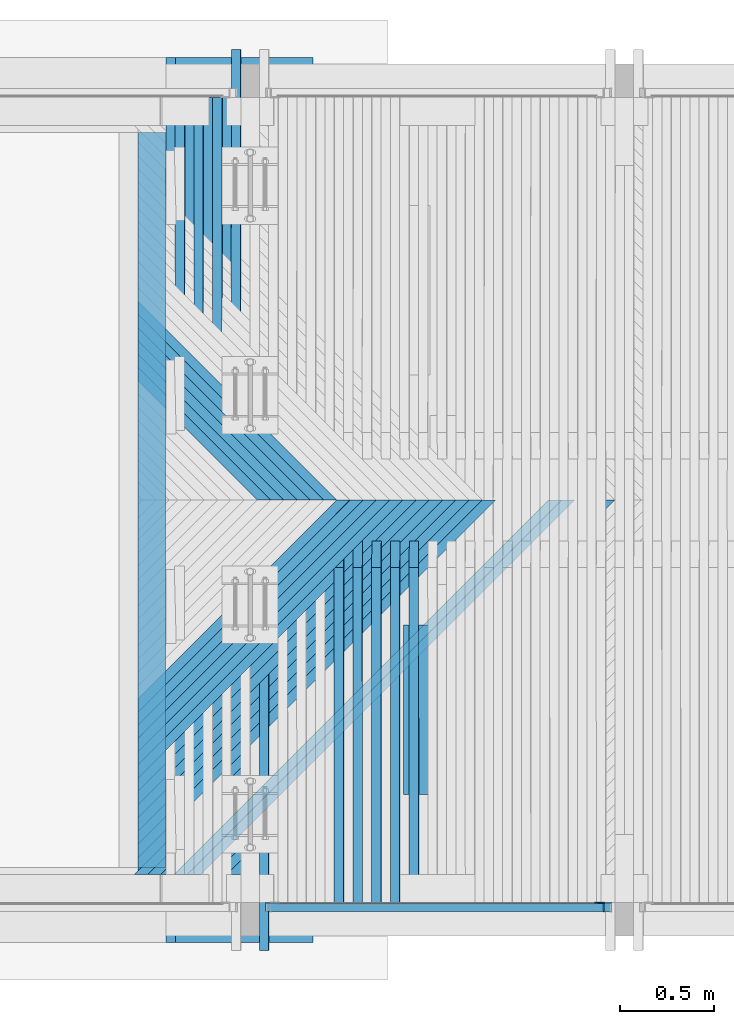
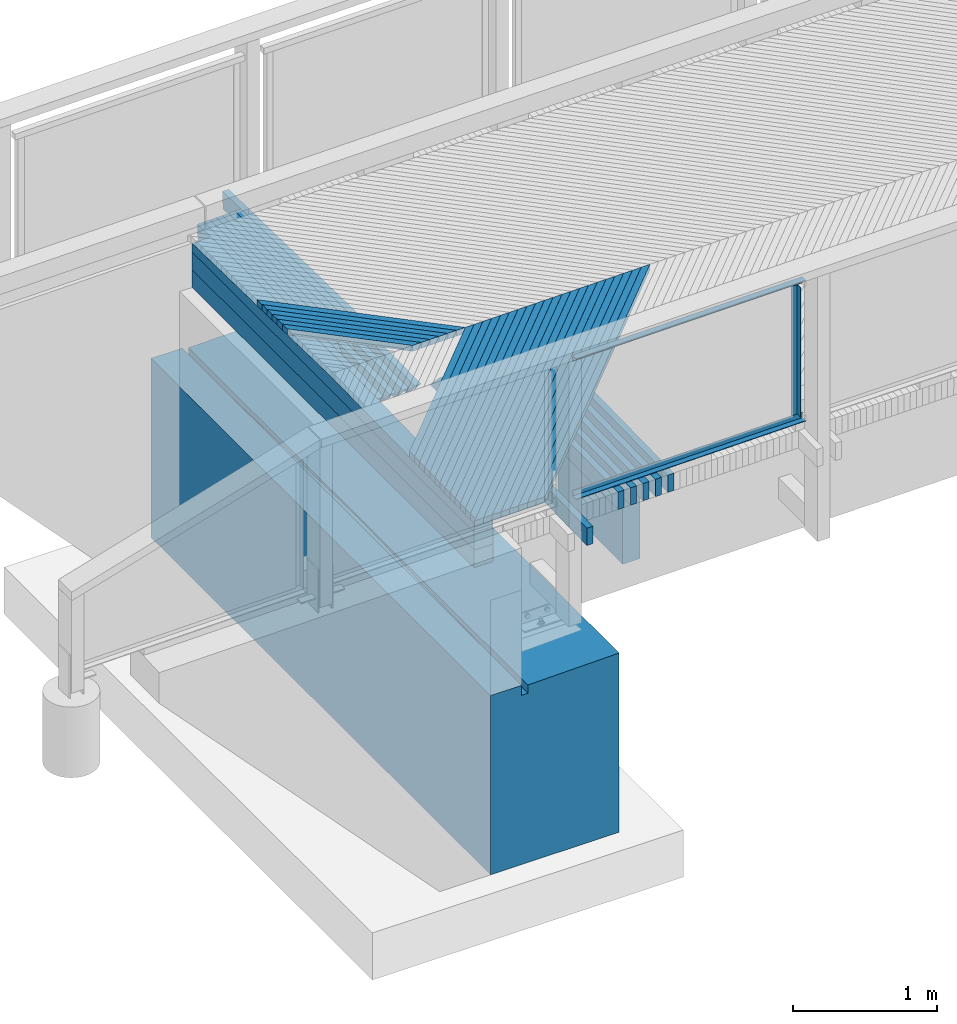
# One storey, part 17 of 65: 49 beams.
"""IFC2X3 building model written with IfcOpenShell, lengths in millimetres."""

import ifcopenshell
import ifcopenshell.guid

model = None  # the IFC model being written
_history = None  # IfcOwnerHistory: only IFC2X3 demands one
_inside = {}  # id of a spatial element -> (the spatial element, [elements in it])
_under = {}  # id of a project, library or spatial element -> (it, [spatial elements below it])
_declared = {}  # id of a project -> (the project, [libraries it declares])
_typed = {}  # id of a type object -> (the type object, [elements of that type])
_made_of = {}  # id of a material, layer set ... -> (it, [elements and type objects made of it])


def new_model(schema):
    """Start an empty IFC model of exactly this schema.

    Asked for "IFC4X3", IfcOpenShell would pick the latest addendum, in which some entities
    have other attributes; the version numbers below select the first issue.
    IFC2X3 requires an IfcOwnerHistory on every rooted entity: one is made here for all.
    """
    global model, _history
    if schema == "IFC4X3":
        model = ifcopenshell.file(schema_version=(4, 3, 0, 0))
    else:
        model = ifcopenshell.file(schema=schema)
    _inside.clear()
    _under.clear()
    _declared.clear()
    _typed.clear()
    _made_of.clear()
    _history = None
    if model.schema == "IFC2X3":
        org = make("IfcOrganization", Name="unknown")
        user = make(
            "IfcPersonAndOrganization",
            ThePerson=make("IfcPerson", FamilyName="unknown"),
            TheOrganization=org,
        )
        app = make(
            "IfcApplication",
            ApplicationDeveloper=org,
            Version="unknown",
            ApplicationFullName="unknown",
            ApplicationIdentifier="unknown",
        )
        _history = make(
            "IfcOwnerHistory",
            OwningUser=user,
            OwningApplication=app,
            ChangeAction="ADDED",
            CreationDate=0,
        )
    return model


def make(cls, **values):
    """One entity of the class cls with the attributes given. An attribute that is None is left unset."""
    return model.create_entity(
        cls, **{name: value for name, value in values.items() if value is not None}
    )


def rooted(cls, **values):
    """An entity with a GlobalId (a new one), such as an element, a storey or a relation."""
    return make(cls, GlobalId=ifcopenshell.guid.new(), OwnerHistory=_history, **values)


def si_unit(unit_type, name, prefix=None):
    """IfcSIUnit, for example si_unit("LENGTHUNIT", "METRE", prefix="MILLI")."""
    return make("IfcSIUnit", UnitType=unit_type, Prefix=prefix, Name=name)


def assignment(units):
    """IfcUnitAssignment: the units of a project."""
    return None if units is None else make("IfcUnitAssignment", Units=units)


def point(xyz):
    """IfcCartesianPoint."""
    return None if xyz is None else make("IfcCartesianPoint", Coordinates=xyz)


def direction(xyz):
    """IfcDirection."""
    return None if xyz is None else make("IfcDirection", DirectionRatios=xyz)


def frame(location, z_axis=None, x_axis=None):
    """IfcAxis2Placement3D, a coordinate frame: its origin and axes. An axis left out is left unset."""
    return make(
        "IfcAxis2Placement3D",
        Location=point(location),
        Axis=direction(z_axis),
        RefDirection=direction(x_axis),
    )


def origin_with_axes():
    """The frame at (0, 0, 0) with the z axis (0, 0, 1) and the x axis (1, 0, 0) written out."""
    return frame((0.0, 0.0, 0.0), z_axis=(0.0, 0.0, 1.0), x_axis=(1.0, 0.0, 0.0))


def place(relative_to, where):
    """IfcLocalPlacement: puts the frame where relative to a parent placement (None: the world)."""
    return make(
        "IfcLocalPlacement", PlacementRelTo=relative_to, RelativePlacement=where
    )


def context(
    kind, dimensions, precision=None, world=None, true_north=None, identifier=None
):
    """IfcGeometricRepresentationContext, for example the 3D "Model" context."""
    return make(
        "IfcGeometricRepresentationContext",
        ContextIdentifier=identifier,
        ContextType=kind,
        CoordinateSpaceDimension=dimensions,
        Precision=precision,
        WorldCoordinateSystem=world,
        TrueNorth=true_north,
    )


def subcontext(parent, identifier, kind, view, scale=None):
    """IfcGeometricRepresentationSubContext, for example "Body" below "Model"."""
    return make(
        "IfcGeometricRepresentationSubContext",
        ContextIdentifier=identifier,
        ContextType=kind,
        ParentContext=parent,
        TargetScale=scale,
        TargetView=view,
    )


def project(units=None, contexts=None):
    """IfcProject with its units and contexts."""
    return rooted(
        "IfcProject",
        Name="project",
        RepresentationContexts=contexts,
        UnitsInContext=assignment(units),
    )


def spatial(cls, under=None, at=None, **own):
    """A site, building, storey or space (cls), placed at a placement, below another one or the project."""
    s = rooted(cls, ObjectPlacement=at, **own)
    if under is not None:
        _under.setdefault(under.id(), (under, []))[1].append(s)
    return s


def faces_of(points, faces, orient=None, outer=None):
    """IfcFace entities. A face is a list of loops; a loop is a list of indices into points, from 0.

    orient and outer hold one flag for each loop. By default every Orientation is true, the
    first loop of a face is its IfcFaceOuterBound and the others are IfcFaceBound.
    """
    made = []
    for i, loops in enumerate(faces):
        bounds = []
        for j, loop in enumerate(loops):
            is_outer = j == 0 if outer is None else outer[i][j]
            bounds.append(
                make(
                    "IfcFaceOuterBound" if is_outer else "IfcFaceBound",
                    Bound=make("IfcPolyLoop", Polygon=[points[k] for k in loop]),
                    Orientation=True if orient is None else orient[i][j],
                )
            )
        made.append(make("IfcFace", Bounds=bounds))
    return made


def faceted_brep(points, faces, orient=None, outer=None, voids=None):
    """IfcFacetedBrep: a solid bounded by flat faces; with voids (closed shells), ...WithVoids."""
    shared = [point(p) for p in points]
    hull = make("IfcClosedShell", CfsFaces=faces_of(shared, faces, orient, outer))
    if voids is None:
        return make("IfcFacetedBrep", Outer=hull)
    return make(
        "IfcFacetedBrepWithVoids",
        Outer=hull,
        Voids=[
            make(cls, CfsFaces=faces_of(shared, fs, o, b)) for cls, fs, o, b in voids
        ],
    )


def shape(context_of_items, identifier, shape_type, items):
    """IfcShapeRepresentation: the items that make up one representation, for example the "Body"."""
    return make(
        "IfcShapeRepresentation",
        ContextOfItems=context_of_items,
        RepresentationIdentifier=identifier,
        RepresentationType=shape_type,
        Items=items,
    )


def material(Name=None, Category=None):
    """IfcMaterial."""
    return make("IfcMaterial", Name=Name, Category=Category)


def made_of(thing, what):
    """Note that an element or type object is made of a material, layer set ...; save() writes the relation."""
    if what is not None:
        _made_of.setdefault(what.id(), (what, []))[1].append(thing)
    return thing


def type_object(cls, material=None, **own):
    """A type object (cls), such as IfcWallType, which elements share."""
    return made_of(rooted(cls, **own), material)


def element(
    cls,
    number,
    at=None,
    inside=None,
    cuts=None,
    type_object=None,
    material=None,
    context=None,
    identifier="Body",
    shape_type=None,
    held_by="IfcProductDefinitionShape",
    body=None,
    shapes=None,
    **own,
):
    """One element of the class cls, such as IfcWall. Its Tag is "e" and its number.

    at: its placement. inside: the storey or other place that contains it. cuts: it is an
    opening in that element (IfcRelVoidsElement). A single representation is given by context,
    identifier, shape_type and body (its items); several are given by shapes. held_by: the class
    of the entity that holds the representations. save() writes the other relations.
    """
    e = rooted(cls, Tag="e%d" % number, ObjectPlacement=at, **own)
    if body is not None:
        shapes = [shape(context, identifier, shape_type, body)]
    if shapes is not None:
        e.Representation = make(held_by, Representations=shapes)
    if inside is not None:
        _inside.setdefault(inside.id(), (inside, []))[1].append(e)
    if cuts is not None:
        rooted(
            "IfcRelVoidsElement", RelatingBuildingElement=cuts, RelatedOpeningElement=e
        )
    if type_object is not None:
        _typed.setdefault(type_object.id(), (type_object, []))[1].append(e)
    return made_of(e, material)


def aggregate(whole, parts):
    """IfcRelAggregates: a whole, such as a stair, and the parts it consists of."""
    return rooted("IfcRelAggregates", RelatingObject=whole, RelatedObjects=parts)


def save(model, path):
    """Write the relations noted so far, then the file.

    IfcRelAggregates (storeys below a building ...), IfcRelContainedInSpatialStructure (elements
    in a storey), IfcRelDefinesByType, IfcRelAssociatesMaterial and IfcRelDeclares: one each for
    every whole, place, type object, material and project.
    """
    for whole, parts in _under.values():
        aggregate(whole, parts)
    for where, things in _inside.values():
        rooted(
            "IfcRelContainedInSpatialStructure",
            RelatedElements=things,
            RelatingStructure=where,
        )
    for kind, things in _typed.values():
        rooted("IfcRelDefinesByType", RelatedObjects=things, RelatingType=kind)
    for what, things in _made_of.values():
        rooted("IfcRelAssociatesMaterial", RelatedObjects=things, RelatingMaterial=what)
    for by, libraries in _declared.values():
        rooted("IfcRelDeclares", RelatingContext=by, RelatedDefinitions=libraries)
    model.write(path)


model = new_model("IFC2X3")

# Units and contexts
model_context = context("Model", 3, precision=1e-05, world=origin_with_axes())
body_context = subcontext(model_context, "Body", "Model", "MODEL_VIEW")
ifc_project = project(units=[si_unit("LENGTHUNIT", "METRE", prefix="MILLI"), si_unit("AREAUNIT", "SQUARE_METRE"), si_unit("VOLUMEUNIT", "CUBIC_METRE"), si_unit("MASSUNIT", "GRAM", prefix="KILO"), si_unit("TIMEUNIT", "SECOND"), si_unit("PLANEANGLEUNIT", "RADIAN"), si_unit("SOLIDANGLEUNIT", "STERADIAN"), si_unit("THERMODYNAMICTEMPERATUREUNIT", "DEGREE_CELSIUS"), si_unit("LUMINOUSINTENSITYUNIT", "LUMEN")], contexts=[model_context])

# Site, building, storey
site_placement = place(None, origin_with_axes())
site = spatial("IfcSite", under=ifc_project, at=site_placement, Name="Undefined", CompositionType="ELEMENT")
building_placement = place(site_placement, origin_with_axes())
building = spatial("IfcBuilding", under=site, at=building_placement, Name="Undefined", CompositionType="ELEMENT")
storey_placement = place(building_placement, origin_with_axes())
storey = spatial("IfcBuildingStorey", under=building, at=storey_placement, Name="Undefined", CompositionType="ELEMENT", Elevation=0.0)

# Beams
ifc_material_1 = material(Name="TIMBER/Timber_Undefined")
beam_type_1 = type_object("IfcBeamType", Name="150*150", PredefinedType="NOTDEFINED")
beam_1_placement = place(storey_placement, frame((-525.0, 20399.9992755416, 3109.00000000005), z_axis=(-1.0, 0.0, 0.0), x_axis=(0.0, 1.0, 0.0)))
element("IfcBeam", 1, at=beam_1_placement, inside=storey, type_object=beam_type_1, material=ifc_material_1, Name="BEAM", ObjectType="150*150", context=body_context, shape_type="Brep", body=[
    faceted_brep([(3.63797880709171e-12, 75.0000000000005, -75.0), (3.63797880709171e-12, 75.0000000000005, 75.0), (3930.0, 75.0, 75.0), (3930.0, 75.0, -75.0), (3930.0, -0.55802813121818, 75.0), (3930.0, -3.17681141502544, -75.0), (1965.00070282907, -42.4729688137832, -75.0), (0.0, -3.17678330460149, -75.0), (0.0, -0.558000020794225, 75.0), (1965.00070282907, -39.8541855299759, 75.0)], [[[0, 1, 2, 3]], [[3, 2, 4, 5]], [[0, 3, 5, 6, 7]], [[1, 0, 7, 8]], [[4, 2, 1, 8, 9]], [[5, 4, 9, 6]], [[8, 7, 6, 9]]]),
])
for number, where, z_axis, x_axis, name in (
    (2, (-525.0, 20399.9992755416, 2959.00000000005), (-1.0, 0.0, 0.0), (0.0, 1.0, 0.0), "BEAM"),
    (3, (-525.0, 20399.9992755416, 2809.00000000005), (-1.0, 0.0, 0.0), (0.0, 1.0, 0.0), "BEAM"),
):
    element("IfcBeam", number, at=place(storey_placement, frame(where, z_axis=z_axis, x_axis=x_axis)), inside=storey, type_object=beam_type_1, material=ifc_material_1, Name=name, ObjectType="150*150", context=body_context, shape_type="Brep", body=[
        faceted_brep([(3.63797880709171e-12, 75.0000000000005, -75.0), (3.63797880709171e-12, 75.0000000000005, 75.0), (3930.0, 75.0, 75.0), (3930.0, 75.0, -75.0), (0.0, -75.0000000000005, 75.0), (3930.0, -75.0, 75.0), (0.0, -75.0000000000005, -75.0), (3930.0, -75.0, -75.0)], [[[0, 1, 2, 3]], [[1, 4, 5, 2]], [[4, 6, 7, 5]], [[6, 0, 3, 7]], [[5, 7, 3, 2]], [[6, 4, 1, 0]]]),
    ])
ifc_material_2 = material(Name="CONCRETE/Concrete_Undefined")
beam_type_2 = type_object("IfcBeamType", Name="1524*1035", PredefinedType="NOTDEFINED")
beam_2_placement = place(storey_placement, frame((-182.5, 20000.0, 1162.0), z_axis=(0.0, 0.0, 1.0), x_axis=(0.0, 1.0, 0.0)))
element("IfcBeam", 4, at=beam_2_placement, inside=storey, type_object=beam_type_2, material=ifc_material_2, Name="LAAKERIPALKKI", ObjectType="1524*1035", context=body_context, shape_type="Brep", body=[
    faceted_brep([(4730.0, 267.5, 762.0), (2366.92526672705, 267.5, 762.0), (2367.55223388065, 267.5, 737.442575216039), (4730.0, 267.5, 676.997414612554), (2367.55223388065, 217.5, 737.442575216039), (4730.0, 217.5, 676.997414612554), (4730.0, 217.500000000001, 747.0), (2367.30822656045, 217.5, 747.0), (0.0, 217.5, 676.997414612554), (0.0, 267.5, 676.997414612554), (0.0, 267.5, 762.0), (0.0, 517.5, 762.0), (0.0, 517.5, -762.0), (0.0, -517.5, -762.0), (0.0, -517.5, 762.0), (0.0, 217.5, 747.0), (4730.0, 517.5, -762.0), (4730.0, 517.5, 762.0), (4730.0, -517.5, -762.0), (4730.0, -517.5, 762.0), (2362.69177343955, 217.5, 747.0), (2362.45109111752, 217.5, 737.312339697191), (2362.45109111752, 267.5, 737.312339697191), (2363.07473327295, 267.5, 762.0)], [[[0, 1, 2, 3]], [[3, 2, 4, 5]], [[6, 5, 4, 7]], [[8, 9, 10, 11, 12, 13, 14, 15]], [[16, 12, 11, 17]], [[13, 12, 16, 18]], [[14, 13, 18, 19]], [[20, 15, 14, 19, 6, 7]], [[7, 4, 21, 8, 15, 20]], [[8, 21, 4, 2, 22, 9]], [[23, 10, 9, 22, 2, 1]], [[17, 11, 10, 23, 1, 0]], [[19, 18, 16, 17, 0, 3, 5, 6]]]),
])
ifc_material_3 = material(Name="STEEL/S235JR")
beam_type_3 = type_object("IfcBeamType", Name="L50*5", PredefinedType="NOTDEFINED")
beam_3_placement = place(storey_placement, frame((1867.50249484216, 20190.01, 4385.3234045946), z_axis=(0.0, -1.0, 0.0), x_axis=(0.0, 0.0, -1.0)))
element("IfcBeam", 5, at=beam_3_placement, inside=storey, type_object=beam_type_3, material=ifc_material_3, Name="BEAM", ObjectType="L50*5", context=body_context, shape_type="Brep", body=[
    faceted_brep([(0.0, 25.0, -25.0), (0.0, 25.0, 25.0), (1099.99156352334, 25.0, 25.0), (1099.99156352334, 25.0, -25.0), (0.0, 20.0, 25.0), (1099.99156352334, 20.0, 25.0), (0.0, 20.0, -20.0), (1099.99156352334, 20.0, -20.0), (0.0, -25.0, -20.0), (1099.99156352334, -25.0, -20.0), (0.0, -25.0, -25.0), (1099.99156352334, -25.0, -25.0)], [[[0, 1, 2, 3]], [[1, 4, 5, 2]], [[4, 6, 7, 5]], [[6, 8, 9, 7]], [[8, 10, 11, 9]], [[10, 0, 3, 11]], [[5, 7, 9, 11, 3, 2]], [[10, 8, 6, 4, 1, 0]]]),
])
for number, where, z_axis, x_axis, name in (
    (6, (1931.70877567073, 20190.0100000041, 3260.78572991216), (0.0, -1.0, 0.0), (-0.999932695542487, 0.0, -0.0116019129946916), "BEAM"),
    (7, (83.2839129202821, 20190.0100000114, 4389.33260482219), (0.0, -1.0, 0.0), (0.999932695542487, 0.0, 0.0116019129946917), "BEAM"),
):
    element("IfcBeam", number, at=place(storey_placement, frame(where, z_axis=z_axis, x_axis=x_axis)), inside=storey, type_object=beam_type_3, material=ifc_material_3, Name=name, ObjectType="L50*5", context=body_context, shape_type="Brep", body=[
        faceted_brep([(0.0, 25.0, -25.0), (0.0, 25.0, 25.0), (1849.12941305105, 24.9999999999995, 25.0), (1849.12941305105, 24.9999999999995, -25.0), (0.0, 20.0, 25.0), (1849.12941305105, 20.0, 25.0), (0.0, 20.0, -20.0), (1849.12941305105, 20.0, -20.0), (0.0, -25.0, -20.0), (1849.12941305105, -25.0000000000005, -20.0), (0.0, -25.0, -25.0), (1849.12941305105, -25.0000000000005, -25.0)], [[[0, 1, 2, 3]], [[1, 4, 5, 2]], [[4, 6, 7, 5]], [[6, 8, 9, 7]], [[8, 10, 11, 9]], [[10, 0, 3, 11]], [[5, 7, 9, 11, 3, 2]], [[10, 8, 6, 4, 1, 0]]]),
    ])
beam_type_4 = type_object("IfcBeamType", Name="945*140", PredefinedType="NOTDEFINED")
beam_4_placement = place(storey_placement, frame((891.0, 21697.5, 2500.3779002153), z_axis=(0.0, 0.0, 1.0), x_axis=(0.0, -1.0, 0.0)))
element("IfcBeam", 8, at=beam_4_placement, inside=storey, type_object=beam_type_4, material=ifc_material_1, Name="PALKKI", ObjectType="945*140", context=body_context, shape_type="Brep", body=[
    faceted_brep([(0.0, 70.0, -472.5), (0.0, 70.0, 472.5), (905.0, 70.0, 472.5), (905.0, 70.0, -472.5), (0.0, -70.0, 472.5), (905.0, -70.0, 472.5), (0.0, -70.0, -472.5), (905.0, -70.0, -472.5)], [[[0, 1, 2, 3]], [[1, 4, 5, 2]], [[4, 6, 7, 5]], [[6, 0, 3, 7]], [[5, 7, 3, 2]], [[6, 4, 1, 0]]]),
])
beam_type_5 = type_object("IfcBeamType", Name="50*50", PredefinedType="NOTDEFINED")
beam_5_placement = place(storey_placement, frame((73.4729104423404, 22365.4998996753, 3183.9450845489), z_axis=(0.70722262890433, 0.706981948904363, -0.0035604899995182), x_axis=(-0.706832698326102, 0.706948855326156, -0.0247154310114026)))
element("IfcBeam", 9, at=beam_5_placement, inside=storey, type_object=beam_type_5, material=ifc_material_1, Name="BEAM", ObjectType="50*50", context=body_context, shape_type="Brep", body=[
    faceted_brep([(25.0011701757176, -25.0000000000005, -24.9999999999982), (-25.0011704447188, -25.0, 24.9999999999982), (-26.4154158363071, 24.9999999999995, 24.9999999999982), (23.5869248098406, 24.9999999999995, -24.9999999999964), (977.288643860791, 25.0000000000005, 24.9999999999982), (927.26106091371, 25.0000000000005, -25.0000000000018), (928.319039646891, -25.0, -25.0), (978.346622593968, -24.9999999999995, 25.0)], [[[0, 1, 2, 3]], [[3, 2, 4, 5]], [[0, 3, 5, 6]], [[1, 0, 6, 7]], [[2, 1, 7, 4]], [[6, 5, 4, 7]]]),
])
beam_6_placement = place(storey_placement, frame((144.191069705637, 22365.4998996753, 3184.87198634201), z_axis=(0.707222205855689, 0.706981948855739, -0.00364356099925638), x_axis=(-0.706835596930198, 0.706948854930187, -0.0246324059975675)))
element("IfcBeam", 10, at=beam_6_placement, inside=storey, type_object=beam_type_5, material=ifc_material_1, Name="BEAM", ObjectType="50*50", context=body_context, shape_type="Brep", body=[
    faceted_brep([(25.0011701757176, -25.0000000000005, -24.9999999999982), (-25.0011704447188, -25.0, 24.9999999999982), (-26.4154158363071, 24.9999999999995, 24.9999999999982), (23.5869248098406, 24.9999999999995, -24.9999999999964), (1077.33772433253, 25.0, 24.9999999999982), (1027.310376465, 25.0, -25.0), (1028.36004453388, -25.0000000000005, -25.0), (1078.38739240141, -25.0, 24.9999999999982)], [[[0, 1, 2, 3]], [[3, 2, 4, 5]], [[0, 3, 5, 6]], [[1, 0, 6, 7]], [[2, 1, 7, 4]], [[6, 5, 4, 7]]]),
])
beam_7_placement = place(storey_placement, frame((214.909337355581, 22365.4998996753, 3185.79058152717), z_axis=(0.707221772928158, 0.706981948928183, -0.00372663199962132), x_axis=(-0.706838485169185, 0.706948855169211, -0.024549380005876)))
element("IfcBeam", 11, at=beam_7_placement, inside=storey, type_object=beam_type_5, material=ifc_material_1, Name="BEAM", ObjectType="50*50", context=body_context, shape_type="Brep", body=[
    faceted_brep([(25.0011701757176, -25.0000000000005, -24.9999999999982), (-25.0011704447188, -25.0, 24.9999999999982), (-26.4154158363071, 24.9999999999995, 24.9999999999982), (23.5869248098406, 24.9999999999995, -24.9999999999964), (1177.38615452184, 25.0000000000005, 25.0), (1127.35904169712, 25.0, -25.0000000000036), (1128.40039913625, -25.0, -25.0000000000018), (1178.42751196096, -25.0, 24.9999999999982)], [[[0, 1, 2, 3]], [[3, 2, 4, 5]], [[0, 3, 5, 6]], [[1, 0, 6, 7]], [[2, 1, 7, 4]], [[6, 5, 4, 7]]]),
])
beam_8_placement = place(storey_placement, frame((285.627712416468, 22365.4998996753, 3186.70087009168), z_axis=(0.707221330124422, 0.706981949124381, -0.00380970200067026), x_axis=(-0.70684136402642, 0.706948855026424, -0.0244663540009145)))
element("IfcBeam", 12, at=beam_8_placement, inside=storey, type_object=beam_type_5, material=ifc_material_1, Name="BEAM", ObjectType="50*50", context=body_context, shape_type="Brep", body=[
    faceted_brep([(25.0011701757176, -25.0000000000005, -24.9999999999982), (-25.0011704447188, -25.0, 24.9999999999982), (-26.4154158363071, 24.9999999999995, 24.9999999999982), (23.5869248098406, 24.9999999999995, -24.9999999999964), (1277.43393563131, 24.9999999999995, 25.0), (1227.40705788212, 25.0, -24.9999999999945), (1228.44010482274, -24.9999999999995, -24.9999999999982), (1278.46698257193, -24.9999999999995, 25.0000000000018)], [[[0, 1, 2, 3]], [[3, 2, 4, 5]], [[0, 3, 5, 6]], [[1, 0, 6, 7]], [[2, 1, 7, 4]], [[6, 5, 4, 7]]]),
])
beam_9_placement = place(storey_placement, frame((356.346193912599, 22365.4998996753, 3187.60285202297), z_axis=(0.707220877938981, 0.706981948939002, -0.00389277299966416), x_axis=(-0.706844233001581, 0.706948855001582, -0.0243833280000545)))
element("IfcBeam", 13, at=beam_9_placement, inside=storey, type_object=beam_type_5, material=ifc_material_1, Name="BEAM", ObjectType="50*50", context=body_context, shape_type="Brep", body=[
    faceted_brep([(25.0011701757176, -25.0000000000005, -24.9999999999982), (-25.0011704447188, -25.0, 24.9999999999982), (-26.4154158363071, 24.9999999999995, 24.9999999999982), (23.5869248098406, 24.9999999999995, -24.9999999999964), (1377.48107131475, 24.9999999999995, 25.0), (1327.45442860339, 24.9999999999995, -25.0000000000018), (1328.47916507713, -25.0000000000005, -24.9999999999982), (1378.50580778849, -25.0000000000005, 25.0000000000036)], [[[0, 1, 2, 3]], [[3, 2, 4, 5]], [[0, 3, 5, 6]], [[1, 0, 6, 7]], [[2, 1, 7, 4]], [[6, 5, 4, 7]]]),
])
beam_10_placement = place(storey_placement, frame((427.06478086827, 22365.4998996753, 3188.49652730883), z_axis=(0.707220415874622, 0.706981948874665, -0.0039758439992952), x_axis=(-0.706847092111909, 0.706948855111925, -0.0243003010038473)))
element("IfcBeam", 14, at=beam_10_placement, inside=storey, type_object=beam_type_5, material=ifc_material_1, Name="BEAM", ObjectType="50*50", context=body_context, shape_type="Brep", body=[
    faceted_brep([(25.0011701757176, -25.0000000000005, -24.9999999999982), (-25.0011704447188, -25.0, 24.9999999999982), (-26.4154158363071, 24.9999999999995, 24.9999999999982), (23.5869248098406, 24.9999999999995, -24.9999999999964), (1477.52756434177, 24.9999999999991, 25.0000000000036), (1427.50115666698, 24.9999999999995, -24.9999999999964), (1428.51758270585, -25.0, -24.9999999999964), (1478.54399038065, -25.0000000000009, 25.0000000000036)], [[[0, 1, 2, 3]], [[3, 2, 4, 5]], [[0, 3, 5, 6]], [[1, 0, 6, 7]], [[2, 1, 7, 4]], [[6, 5, 4, 7]]]),
])
beam_11_placement = place(storey_placement, frame((497.783472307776, 22364.5001003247, 3189.38189593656), z_axis=(0.707219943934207, -0.70698194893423, -0.00405891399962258), x_axis=(-0.706849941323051, -0.706948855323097, -0.024217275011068)))
element("IfcBeam", 15, at=beam_11_placement, inside=storey, type_object=beam_type_5, material=ifc_material_1, Name="BEAM", ObjectType="50*50", context=body_context, shape_type="Brep", body=[
    faceted_brep([(23.4806436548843, -24.9999999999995, -25.0000000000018), (-26.4222658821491, -25.0000000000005, 25.0), (-25.0086637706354, 24.9999999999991, 25.0), (24.8942457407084, 25.0000000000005, -25.0000000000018), (1528.55536067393, 25.0, -25.0000000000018), (1527.54724488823, -24.9999999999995, -25.0000000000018), (1577.57341753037, -25.0, 24.9999999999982), (1578.58153331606, 25.0, 24.9999999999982)], [[[0, 1, 2, 3]], [[0, 3, 4, 5]], [[1, 0, 5, 6]], [[2, 1, 6, 7]], [[3, 2, 7, 4]], [[6, 5, 4, 7]]]),
])
beam_12_placement = place(storey_placement, frame((568.50226725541, 22364.5001003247, 3190.25895789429), z_axis=(0.707219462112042, -0.706981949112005, -0.0041419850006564), x_axis=(-0.706852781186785, -0.706948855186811, -0.0241342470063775)))
element("IfcBeam", 16, at=beam_12_placement, inside=storey, type_object=beam_type_5, material=ifc_material_1, Name="BEAM", ObjectType="50*50", context=body_context, shape_type="Brep", body=[
    faceted_brep([(23.4806436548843, -24.9999999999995, -25.0000000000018), (-26.4222658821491, -25.0000000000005, 25.0), (-25.0086637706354, 24.9999999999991, 25.0), (24.8942457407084, 25.0000000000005, -25.0000000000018), (1628.59250041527, 25.0, -24.9999999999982), (1627.59269495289, -24.9999999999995, -25.0), (1677.61863252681, -25.0, 25.0), (1678.61843798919, 25.0, 25.0000000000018)], [[[0, 1, 2, 3]], [[0, 3, 4, 5]], [[1, 0, 5, 6]], [[2, 1, 6, 7]], [[3, 2, 7, 4]], [[6, 5, 4, 7]]]),
])
beam_13_placement = place(storey_placement, frame((639.221164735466, 22364.5001003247, 3191.12771316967), z_axis=(0.707218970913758, -0.706981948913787, -0.00422505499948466), x_axis=(-0.70685561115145, -0.70694885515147, -0.0240512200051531)))
element("IfcBeam", 17, at=beam_13_placement, inside=storey, type_object=beam_type_5, material=ifc_material_1, Name="BEAM", ObjectType="50*50", context=body_context, shape_type="Brep", body=[
    faceted_brep([(23.4806436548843, -24.9999999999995, -25.0000000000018), (-26.4222658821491, -25.0000000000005, 25.0), (-25.0086637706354, 24.9999999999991, 25.0), (24.8942457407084, 25.0000000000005, -25.0000000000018), (1728.62900598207, 25.0000000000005, -24.9999999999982), (1727.63751066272, -25.0, -24.9999999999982), (1777.66321320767, -25.0000000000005, 25.0), (1778.65470852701, 25.0000000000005, 25.0)], [[[0, 1, 2, 3]], [[0, 3, 4, 5]], [[1, 0, 5, 6]], [[2, 1, 6, 7]], [[3, 2, 7, 4]], [[6, 5, 4, 7]]]),
])
beam_14_placement = place(storey_placement, frame((709.940163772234, 22364.5001003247, 3191.98816175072), z_axis=(0.707218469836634, -0.706981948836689, -0.00430812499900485), x_axis=(-0.706858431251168, -0.7069488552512, -0.0239681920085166)))
element("IfcBeam", 18, at=beam_14_placement, inside=storey, type_object=beam_type_5, material=ifc_material_1, Name="BEAM", ObjectType="50*50", context=body_context, shape_type="Brep", body=[
    faceted_brep([(23.4806436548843, -24.9999999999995, -25.0000000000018), (-26.4222658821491, -25.0000000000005, 25.0), (-25.0086637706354, 24.9999999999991, 25.0), (24.8942457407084, 25.0000000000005, -25.0000000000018), (1828.6648800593, 25.0, -24.9999999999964), (1827.68169485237, -25.0, -24.9999999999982), (1877.70716236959, -25.0000000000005, 25.0000000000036), (1878.69034757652, 25.0, 25.0000000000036)], [[[0, 1, 2, 3]], [[0, 3, 4, 5]], [[1, 0, 5, 6]], [[2, 1, 6, 7]], [[3, 2, 7, 4]], [[6, 5, 4, 7]]]),
])
beam_15_placement = place(storey_placement, frame((780.659263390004, 22364.5001003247, 3192.8403036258), z_axis=(0.707217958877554, -0.706981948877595, -0.00439119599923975), x_axis=(-0.706861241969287, -0.706948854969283, -0.0238851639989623)))
element("IfcBeam", 19, at=beam_15_placement, inside=storey, type_object=beam_type_5, material=ifc_material_1, Name="BEAM", ObjectType="50*50", context=body_context, shape_type="Brep", body=[
    faceted_brep([(23.4806436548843, -24.9999999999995, -25.0000000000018), (-26.4222658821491, -25.0000000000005, 25.0), (-25.0086637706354, 24.9999999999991, 25.0), (24.8942457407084, 25.0000000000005, -25.0000000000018), (1928.70012414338, 25.0000000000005, -25.0), (1927.72524901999, -24.9999999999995, -24.9999999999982), (1977.75048147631, -24.9999999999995, 25.0), (1978.7253565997, 25.0, 25.0)], [[[0, 1, 2, 3]], [[0, 3, 4, 5]], [[1, 0, 5, 6]], [[2, 1, 6, 7]], [[3, 2, 7, 4]], [[6, 5, 4, 7]]]),
])
beam_16_placement = place(storey_placement, frame((851.378462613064, 22364.5001003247, 3193.68413878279), z_axis=(0.707217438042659, -0.706981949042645, -0.00447426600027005), x_axis=(-0.706864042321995, -0.706948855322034, -0.0238021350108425)))
element("IfcBeam", 20, at=beam_16_placement, inside=storey, type_object=beam_type_5, material=ifc_material_1, Name="BEAM", ObjectType="50*50", context=body_context, shape_type="Brep", body=[
    faceted_brep([(23.4806436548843, -24.9999999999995, -25.0000000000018), (-26.4222658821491, -25.0000000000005, 25.0), (-25.0086637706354, 24.9999999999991, 25.0), (24.8942457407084, 25.0000000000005, -25.0000000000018), (2028.73474369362, 24.9999999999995, -25.0), (2027.76817857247, -25.0000000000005, -25.0000000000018), (2077.79317600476, -25.0000000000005, 24.9999999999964), (2078.7597411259, 24.9999999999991, 24.9999999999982)], [[[0, 1, 2, 3]], [[0, 3, 4, 5]], [[1, 0, 5, 6]], [[2, 1, 6, 7]], [[3, 2, 7, 4]], [[6, 5, 4, 7]]]),
])
beam_17_placement = place(storey_placement, frame((922.097760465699, 22364.5001003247, 3194.51966721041), z_axis=(0.707216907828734, -0.706981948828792, -0.00455733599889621), x_axis=(-0.706866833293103, -0.706948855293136, -0.0237191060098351)))
element("IfcBeam", 21, at=beam_17_placement, inside=storey, type_object=beam_type_5, material=ifc_material_1, Name="BEAM", ObjectType="50*50", context=body_context, shape_type="Brep", body=[
    faceted_brep([(23.4806436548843, -24.9999999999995, -25.0000000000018), (-26.4222658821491, -25.0000000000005, 25.0), (-25.0086637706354, 24.9999999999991, 25.0), (24.8942457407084, 25.0000000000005, -25.0000000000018), (2128.76873875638, 25.0000000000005, -25.0000000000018), (2127.81048355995, -24.9999999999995, -25.0000000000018), (2177.83524597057, -24.9999999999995, 25.0), (2178.793501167, 25.0000000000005, 24.9999999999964)], [[[0, 1, 2, 3]], [[0, 3, 4, 5]], [[1, 0, 5, 6]], [[2, 1, 6, 7]], [[3, 2, 7, 4]], [[6, 5, 4, 7]]]),
])
beam_18_placement = place(storey_placement, frame((992.817155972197, 22364.5001003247, 3195.34688889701), z_axis=(0.707216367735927, -0.706981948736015, -0.00464040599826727), x_axis=(-0.706869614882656, -0.706948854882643, -0.0236360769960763)))
element("IfcBeam", 22, at=beam_18_placement, inside=storey, type_object=beam_type_5, material=ifc_material_1, Name="BEAM", ObjectType="50*50", context=body_context, shape_type="Brep", body=[
    faceted_brep([(23.4806436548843, -24.9999999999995, -25.0000000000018), (-26.4222658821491, -25.0000000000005, 25.0), (-25.0086637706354, 24.9999999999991, 25.0), (24.8942457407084, 25.0000000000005, -25.0000000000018), (2228.80211195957, 25.0, -24.9999999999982), (2227.85216660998, -25.0, -24.9999999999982), (2277.87669396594, -24.9999999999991, 25.0), (2278.82663931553, 25.0, 25.0)], [[[0, 1, 2, 3]], [[0, 3, 4, 5]], [[1, 0, 5, 6]], [[2, 1, 6, 7]], [[3, 2, 7, 4]], [[6, 5, 4, 7]]]),
])
beam_19_placement = place(storey_placement, frame((1063.53664815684, 22364.5001003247, 3196.16580383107), z_axis=(0.707215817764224, -0.706981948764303, -0.00472347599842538), x_axis=(-0.706872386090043, -0.706948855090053, -0.0235530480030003)))
element("IfcBeam", 23, at=beam_19_placement, inside=storey, type_object=beam_type_5, material=ifc_material_1, Name="BEAM", ObjectType="50*50", context=body_context, shape_type="Brep", body=[
    faceted_brep([(23.4806436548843, -24.9999999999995, -25.0000000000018), (-26.4222658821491, -25.0000000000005, 25.0), (-25.0086637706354, 24.9999999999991, 25.0), (24.8942457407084, 25.0000000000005, -25.0000000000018), (2328.83486921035, 24.9999999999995, -25.0000000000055), (2327.89323362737, -25.0, -25.0000000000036), (2377.91752596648, -25.0, 24.9999999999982), (2378.85916154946, 25.0, 25.0)], [[[0, 1, 2, 3]], [[0, 3, 4, 5]], [[1, 0, 5, 6]], [[2, 1, 6, 7]], [[3, 2, 7, 4]], [[6, 5, 4, 7]]]),
])
beam_20_placement = place(storey_placement, frame((1134.25623604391, 22364.5001003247, 3196.97641200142), z_axis=(0.707215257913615, -0.706981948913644, -0.00480654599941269), x_axis=(-0.706875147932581, -0.706948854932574, -0.0234700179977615)))
element("IfcBeam", 24, at=beam_20_placement, inside=storey, type_object=beam_type_5, material=ifc_material_1, Name="BEAM", ObjectType="50*50", context=body_context, shape_type="Brep", body=[
    faceted_brep([(23.4806436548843, -24.9999999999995, -25.0000000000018), (-26.4222658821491, -25.0000000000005, 25.0), (-25.0086637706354, 24.9999999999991, 25.0), (24.8942457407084, 25.0000000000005, -25.0000000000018), (2428.8670100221, 25.0, -25.0), (2427.93368417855, -25.0000000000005, -25.0), (2477.9577414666, -25.0, 24.9999999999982), (2478.89106731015, 25.0, 24.9999999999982)], [[[0, 1, 2, 3]], [[0, 3, 4, 5]], [[1, 0, 5, 6]], [[2, 1, 6, 7]], [[3, 2, 7, 4]], [[6, 5, 4, 7]]]),
])
beam_21_placement = place(storey_placement, frame((1204.9759186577, 22364.5001003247, 3197.77871339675), z_axis=(0.707214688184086, -0.706981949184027, -0.00488961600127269), x_axis=(-0.706877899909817, -0.706948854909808, -0.0233869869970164)))
element("IfcBeam", 25, at=beam_21_placement, inside=storey, type_object=beam_type_5, material=ifc_material_1, Name="BEAM", ObjectType="50*50", context=body_context, shape_type="Brep", body=[
    faceted_brep([(23.4806436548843, -24.9999999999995, -25.0000000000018), (-26.4222658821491, -25.0000000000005, 25.0), (-25.0086637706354, 24.9999999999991, 25.0), (24.8942457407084, 25.0000000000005, -25.0000000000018), (2528.89853878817, 25.0, -24.9999999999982), (2527.97352265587, -25.0, -24.9999999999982), (2577.99734489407, -25.0, 25.0000000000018), (2578.92236102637, 25.0, 25.0000000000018)], [[[0, 1, 2, 3]], [[0, 3, 4, 5]], [[1, 0, 5, 6]], [[2, 1, 6, 7]], [[3, 2, 7, 4]], [[6, 5, 4, 7]]]),
])
beam_22_placement = place(storey_placement, frame((1275.69569502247, 22364.5001003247, 3198.57270800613), z_axis=(0.707214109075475, -0.706981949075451, -0.00497268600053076), x_axis=(-0.706880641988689, -0.706948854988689, -0.0233039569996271)))
element("IfcBeam", 26, at=beam_22_placement, inside=storey, type_object=beam_type_5, material=ifc_material_1, Name="BEAM", ObjectType="50*50", context=body_context, shape_type="Brep", body=[
    faceted_brep([(23.4806436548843, -24.9999999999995, -25.0000000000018), (-26.4222658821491, -25.0000000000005, 25.0), (-25.0086637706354, 24.9999999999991, 25.0), (24.8942457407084, 25.0000000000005, -25.0000000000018), (2628.92945847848, 24.9999999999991, -24.9999999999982), (2628.01275193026, -24.9999999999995, -25.0), (2678.0363391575, -25.0, 24.9999999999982), (2678.95304570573, 24.9999999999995, 25.0)], [[[0, 1, 2, 3]], [[0, 3, 4, 5]], [[1, 0, 5, 6]], [[2, 1, 6, 7]], [[3, 2, 7, 4]], [[6, 5, 4, 7]]]),
])
beam_23_placement = place(storey_placement, frame((1346.41556416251, 22364.5001003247, 3199.3583958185), z_axis=(0.70721352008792, -0.706981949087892, -0.00505575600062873), x_axis=(-0.706883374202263, -0.706948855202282, -0.0232209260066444)))
element("IfcBeam", 27, at=beam_23_placement, inside=storey, type_object=beam_type_5, material=ifc_material_1, Name="BEAM", ObjectType="50*50", context=body_context, shape_type="Brep", body=[
    faceted_brep([(23.4806436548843, -24.9999999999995, -25.0000000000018), (-26.4222658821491, -25.0000000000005, 25.0), (-25.0086637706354, 24.9999999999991, 25.0), (24.8942457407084, 25.0000000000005, -25.0000000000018), (2728.95977176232, 25.0, -24.9999999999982), (2728.0513747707, -25.0000000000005, -25.0), (2778.07472698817, -25.0, 24.9999999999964), (2778.98312397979, 25.0, 24.9999999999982)], [[[0, 1, 2, 3]], [[0, 3, 4, 5]], [[1, 0, 5, 6]], [[2, 1, 6, 7]], [[3, 2, 7, 4]], [[6, 5, 4, 7]]]),
])
for number, where, z_axis, x_axis, name in (
    (28, (1417.1355251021, 22364.5001003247, 3200.13577682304), (0.70721292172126, -0.706981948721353, -0.00513882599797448), (-0.706886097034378, -0.706948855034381, -0.0231378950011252), "BEAM"),
    (29, (1487.85557686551, 22364.5001003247, 3200.90485100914), (0.707212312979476, -0.706981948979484, -0.00522189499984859), (-0.706888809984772, -0.70694885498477, -0.0230548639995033), "BEAM"),
    (30, (1558.57571847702, 22364.5001003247, 3201.66561836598), (0.707211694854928, -0.706981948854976, -0.00530496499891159), (-0.706891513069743, -0.706948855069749, -0.0229718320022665), "BEAM"),
    (31, (1629.2959489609, 22364.5001003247, 3202.41807888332), (0.707211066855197, -0.706981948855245, -0.00538803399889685), (-0.706894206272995, -0.706948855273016, -0.0228888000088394), "BEAM"),
    (32, (1700.01626734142, 22364.5001003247, 3203.16223255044), (0.707210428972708, -0.706981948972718, -0.00547110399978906), (-0.706896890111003, -0.706948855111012, -0.0228057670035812), "BEAM"),
    (33, (1770.73667264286, 22364.5001003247, 3203.89807935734), (0.70720978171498, -0.706981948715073, -0.00555417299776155), (-0.706899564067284, -0.706948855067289, -0.0227227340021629), "BEAM"),
    (34, (1841.45716388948, 22364.5001003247, 3204.62561929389), (0.707209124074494, -0.706981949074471, -0.00563724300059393), (-0.706902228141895, -0.706948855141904, -0.0226397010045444), "BEAM"),
    (35, (1912.17774010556, 22364.5001003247, 3205.34485234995), (0.707208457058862, -0.706981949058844, -0.00572031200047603), (-0.706904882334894, -0.706948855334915, -0.0225566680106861), "BEAM"),
):
    element("IfcBeam", number, at=place(storey_placement, frame(where, z_axis=z_axis, x_axis=x_axis)), inside=storey, type_object=beam_type_5, material=ifc_material_1, Name=name, ObjectType="50*50", context=body_context, shape_type="Brep", body=[
        faceted_brep([(24.8942457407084, 25.0000000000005, -25.0000000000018), (-25.0086637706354, 24.9999999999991, 25.0), (2804.3406783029, 25.0, 25.0000000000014), (2854.34301907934, 24.9999999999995, -25.0), (-26.4222658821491, -25.0000000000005, 25.0), (2802.92643296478, -25.0, 25.0000000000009), (23.4806436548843, -24.9999999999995, -25.0000000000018), (2852.92877373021, -25.0000000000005, -24.9999999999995)], [[[0, 1, 2, 3]], [[1, 4, 5, 2]], [[4, 6, 7, 5]], [[6, 0, 3, 7]], [[5, 7, 3, 2]], [[6, 4, 1, 0]]]),
    ])
beam_type_6 = type_object("IfcBeamType", Name="150*50", PredefinedType="NOTDEFINED")
for number, where, z_axis, x_axis, name in (
    (36, (875.515037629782, 20216.5046076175, 3050.98345109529), (-0.0119160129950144, -0.0199960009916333, 0.999729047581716), (-0.000238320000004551, 0.99980006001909, 0.0199945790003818), "BEAM"),
    (37, (775.50210878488, 20216.5046076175, 3049.79137099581), (-0.0120821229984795, -0.019996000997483, 0.999727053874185), (-0.000241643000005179, 0.999800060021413, 0.0199945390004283), "BEAM"),
    (38, (675.489379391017, 20216.5046076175, 3048.58267323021), (-0.0122482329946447, -0.0199960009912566, 0.999725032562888), (-0.000244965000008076, 0.99980006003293, 0.0199944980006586), "BEAM"),
    (39, (575.476852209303, 20216.5046076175, 3047.35735783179), (-0.012414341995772, -0.0199960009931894, 0.99972298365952), (-0.000248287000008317, 0.999800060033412, 0.0199944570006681), "BEAM"),
    (40, (475.464530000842, 20216.5046076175, 3046.11542483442), (-0.0125804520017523, -0.0199960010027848, 0.999720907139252), (-0.000251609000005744, 0.999800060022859, 0.0199944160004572), "BEAM"),
):
    element("IfcBeam", number, at=place(storey_placement, frame(where, z_axis=z_axis, x_axis=x_axis)), inside=storey, type_object=beam_type_6, material=ifc_material_1, Name=name, ObjectType="150*50", context=body_context, shape_type="Brep", body=[
        faceted_brep([(-1.6778358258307e-07, -24.9999999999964, -74.9999999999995), (1.67790858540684e-07, -24.9999999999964, 75.0000000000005), (1.67790858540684e-07, 25.0000000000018, 74.9999999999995), (-1.6778358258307e-07, 25.0000000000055, -75.0), (1928.42646353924, -25.0, -75.0000000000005), (1789.96936433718, -25.0000000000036, 74.9999999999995), (1789.96936408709, 24.9999999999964, 75.0), (1928.42646328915, 24.9999999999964, -75.0)], [[[0, 1, 2, 3]], [[1, 0, 4, 5]], [[2, 1, 5, 6]], [[3, 2, 6, 7]], [[0, 3, 7, 4]], [[7, 6, 5, 4]]]),
    ])
for number, where, z_axis, x_axis, name in (
    (41, (-424.636690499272, 24513.4953923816, 3034.19024171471), (-0.0140754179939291, 0.019996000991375, 0.999700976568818), (-0.000281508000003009, -0.999800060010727, 0.0199940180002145), "BEAM"),
    (42, (-324.626337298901, 24513.4953923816, 3035.58173150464), (-0.0139093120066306, 0.0199960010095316, 0.999703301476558), (-0.000278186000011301, -0.999800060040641, 0.0199940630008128), "BEAM"),
    (43, (-224.615754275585, 24513.4953923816, 3036.95660402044), (-0.0137432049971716, 0.0199960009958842, 0.999705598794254), (-0.000274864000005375, -0.999800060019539, 0.0199941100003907), "BEAM"),
    (44, (-124.60494419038, 24513.4953923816, 3038.31485922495), (-0.0135770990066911, 0.019996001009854, 0.999707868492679), (-0.000271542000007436, -0.999800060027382, 0.0199941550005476), "BEAM"),
):
    element("IfcBeam", number, at=place(storey_placement, frame(where, z_axis=z_axis, x_axis=x_axis)), inside=storey, type_object=beam_type_6, material=ifc_material_1, Name=name, ObjectType="150*50", context=body_context, shape_type="Brep", body=[
        faceted_brep([(-1.6778358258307e-07, -24.9999999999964, -74.9999999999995), (-1.6778358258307e-07, 25.0000000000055, -75.0), (2375.00494422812, 25.0000000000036, -75.0), (2375.00494447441, -24.9999999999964, -74.9999999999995), (1.67790858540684e-07, -24.9999999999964, 75.0000000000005), (1.67790858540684e-07, 25.0000000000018, 74.9999999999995), (2150.42515052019, 25.0000000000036, 74.9999999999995), (2510.59248715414, 25.0000000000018, 60.5875433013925), (2510.59248714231, -24.9999999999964, 60.5875430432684), (2150.42514405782, -24.9999999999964, 75.0000000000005)], [[[0, 1, 2, 3]], [[0, 4, 5, 1]], [[2, 1, 5, 6, 7]], [[3, 2, 7, 8]], [[4, 0, 3, 8, 9]], [[5, 4, 9, 6]], [[8, 7, 6, 9]]]),
    ])
beam_24_placement = place(storey_placement, frame((75.4865469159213, 19958.5561921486, 3035.82301395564), z_axis=(-0.0132448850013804, -0.0199960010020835, 0.99971232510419), x_axis=(-0.0002652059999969, 0.999800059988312, 0.0199942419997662)))
element("IfcBeam", 45, at=beam_24_placement, inside=storey, type_object=beam_type_6, material=ifc_material_1, Name="BEAM", ObjectType="150*50", context=body_context, shape_type="Brep", body=[
    faceted_brep([(-1.6778358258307e-07, -24.9999999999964, -74.9999999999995), (1.67790858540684e-07, -24.9999999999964, 75.0000000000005), (1.67790858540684e-07, 25.0000000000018, 74.9999999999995), (-1.6778358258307e-07, 25.0000000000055, -75.0), (2186.42645144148, -25.0000000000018, -75.0), (2047.96935255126, -25.0000000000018, 75.0000000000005), (2047.9693678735, 24.9999999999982, 75.0), (2186.42646676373, 24.9999999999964, -74.9999999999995)], [[[0, 1, 2, 3]], [[1, 0, 4, 5]], [[2, 1, 5, 6]], [[3, 2, 6, 7]], [[0, 3, 7, 4]], [[7, 6, 5, 4]]]),
])
for number, where, z_axis, x_axis, name in (
    (46, (-374.621498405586, 24513.4953923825, 3034.88612679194), (-0.0139093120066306, 0.0199960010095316, 0.999703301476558), (-0.000278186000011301, -0.999800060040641, 0.0199940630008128), "BEAM"),
    (47, (-274.611030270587, 24513.4953923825, 3036.26930628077), (-0.0137432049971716, 0.0199960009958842, 0.999705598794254), (-0.000274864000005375, -0.999800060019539, 0.0199941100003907), "BEAM"),
    (48, (-174.600333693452, 24513.4953923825, 3037.6358684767), (-0.0135770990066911, 0.019996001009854, 0.999707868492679), (-0.000271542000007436, -0.999800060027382, 0.0199941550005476), "BEAM"),
):
    element("IfcBeam", number, at=place(storey_placement, frame(where, z_axis=z_axis, x_axis=x_axis)), inside=storey, type_object=beam_type_6, material=ifc_material_1, Name=name, ObjectType="150*50", context=body_context, shape_type="Brep", body=[
        faceted_brep([(-1.6778358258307e-07, -24.9999999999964, -74.9999999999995), (1.67790858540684e-07, -24.9999999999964, 75.0000000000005), (1.67790858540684e-07, 25.0000000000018, 74.9999999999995), (-1.6778358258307e-07, 25.0000000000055, -75.0), (1928.42646328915, 24.9999999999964, -75.0), (1928.42646353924, -25.0, -75.0000000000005), (1789.96936433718, -25.0000000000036, 74.9999999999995), (1789.96936408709, 24.9999999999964, 75.0)], [[[0, 1, 2, 3]], [[0, 3, 4, 5]], [[1, 0, 5, 6]], [[2, 1, 6, 7]], [[3, 2, 7, 4]], [[4, 7, 6, 5]]]),
    ])
beam_25_placement = place(storey_placement, frame((-74.5210676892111, 24771.443807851, 3033.82729839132), z_axis=(-0.0134109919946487, 0.0199960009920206, 0.999710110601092), x_axis=(-0.00026822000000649, -0.999800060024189, 0.0199942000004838)))
element("IfcBeam", 49, at=beam_25_placement, inside=storey, type_object=beam_type_6, material=ifc_material_1, Name="BEAM", ObjectType="150*50", context=body_context, shape_type="Brep", body=[
    faceted_brep([(-1.6778358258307e-07, -24.9999999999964, -74.9999999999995), (1.67790858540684e-07, -24.9999999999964, 75.0000000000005), (1.67790858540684e-07, 25.0000000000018, 74.9999999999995), (-1.6778358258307e-07, 25.0000000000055, -75.0), (2186.42646676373, 24.9999999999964, -74.9999999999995), (2186.42645144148, -25.0000000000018, -75.0), (2047.96935255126, -25.0000000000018, 75.0000000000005), (2047.9693678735, 24.9999999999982, 75.0)], [[[0, 1, 2, 3]], [[0, 3, 4, 5]], [[1, 0, 5, 6]], [[2, 1, 6, 7]], [[3, 2, 7, 4]], [[4, 7, 6, 5]]]),
])

save(model, "model.ifc")
